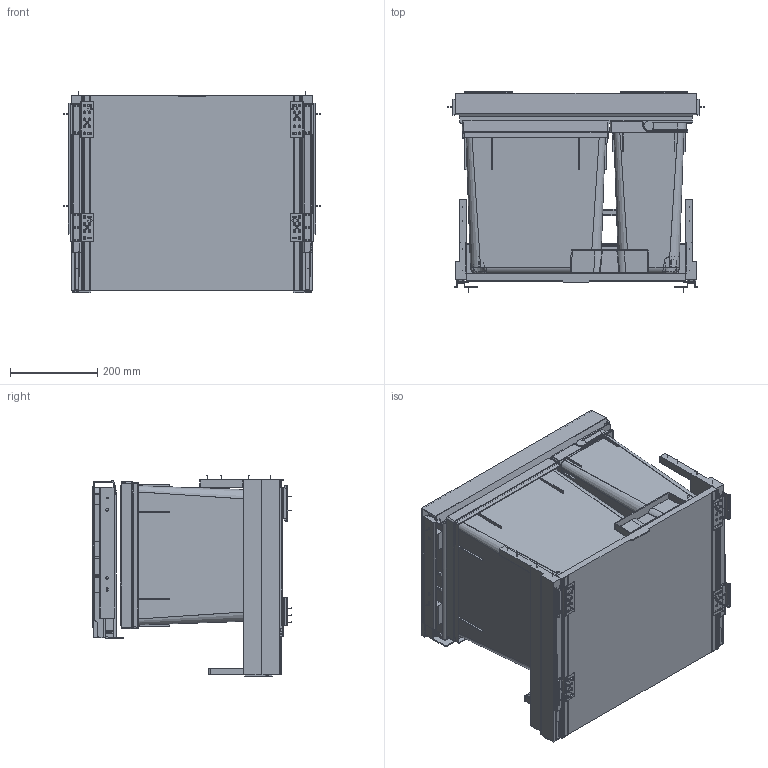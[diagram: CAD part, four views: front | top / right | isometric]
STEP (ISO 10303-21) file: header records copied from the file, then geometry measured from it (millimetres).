
FILE_DESCRIPTION((''),'2;1');
FILE_NAME('X60_M7_PREMIUM_PRO_LIGHT','2024-05-22T16:36:24',('fba'),(''),'CREO PARAMETRIC BY PTC INC, 2022024','CREO PARAMETRIC BY PTC INC, 2022024','');
FILE_SCHEMA(('AUTOMOTIVE_DESIGN { 1 0 10303 214 1 1 1 1 }'));
Products named in the file (15): KOMPLETTAUSZUG_R60_LIGHT; 12245_LIGHT; 12258_LIGHT; 12259_LIGHT; 12247_LIGHT; 12274_LIGHT; 12278_LIGHT; 12282_LIGHT; 12483_LIGHT; 12283_LIGHT; 12310_LIGHT; 12312_LIGHT; 12453_LIGHT; 12313_LIGHT; X60_M7_PREMIUM_PRO_LIGHT
Assembly tree (15 placements, depth 3):
  X60_M7_PREMIUM_PRO_LIGHT
    KOMPLETTAUSZUG_R60_LIGHT
    12245_LIGHT
    12258_LIGHT
    12259_LIGHT
    12247_LIGHT
    12274_LIGHT
    12278_LIGHT
    12282_LIGHT
    12483_LIGHT
    12283_LIGHT  x2
    12453_LIGHT
      12310_LIGHT
      12312_LIGHT
    12313_LIGHT
Bounding box: 588 x 458 x 461.2 mm (x, y, z)
Volume: 9806530.2 mm3; surface area: 4341179.6 mm2
Topology: 30 solids, 30 shells, 3469 faces, 9268 edges, 5975 vertices
Faces by surface type: plane 1790, cylinder 989, bspline 264, torus 140, cone 124, extrusion 104, sphere 58
Entity records: 138874 total; most frequent: CARTESIAN_POINT 43287, ORIENTED_EDGE 18204, DIRECTION 16246, EDGE_CURVE 9102, VERTEX_POINT 5879, VECTOR 5740, LINE 5636, AXIS2_PLACEMENT_3D 5253
